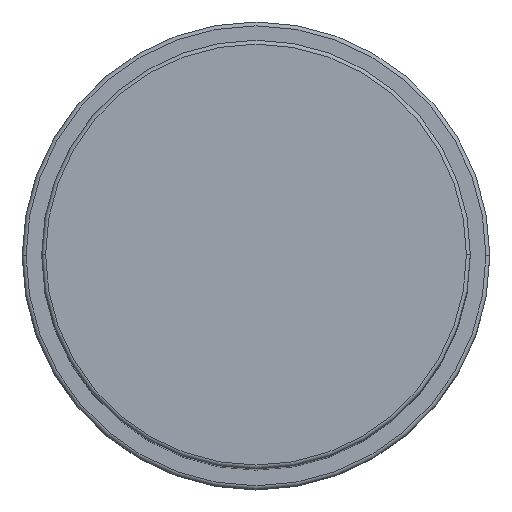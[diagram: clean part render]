
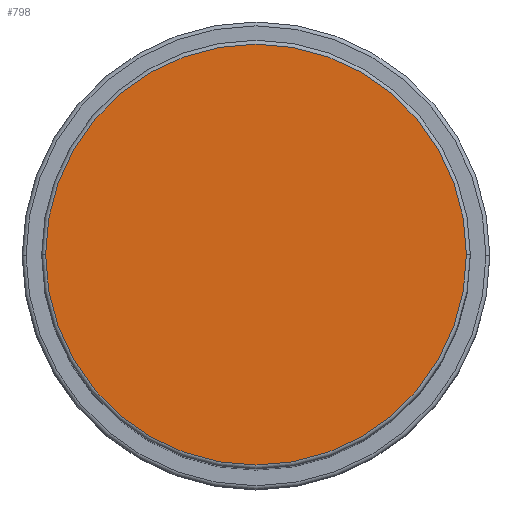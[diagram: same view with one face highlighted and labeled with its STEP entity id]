
A CAD part, top view. The second image highlights one B-rep face of the part: STEP entity #798.
In plain terms, the highlighted planar face has unit normal (0, 0, 1).
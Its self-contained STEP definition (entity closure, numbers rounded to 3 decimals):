
#44 = CARTESIAN_POINT ( 'NONE',  ( 0., 0., 116. ) ) ;
#46 = PLANE ( 'NONE',  #229 ) ;
#64 = DIRECTION ( 'NONE',  ( 0., 0., 1. ) ) ;
#163 = CARTESIAN_POINT ( 'NONE',  ( 0., 0., 116. ) ) ;
#171 = VERTEX_POINT ( 'NONE', #1419 ) ;
#229 = AXIS2_PLACEMENT_3D ( 'NONE', #163, #64, #743 ) ;
#278 = EDGE_CURVE ( 'NONE', #591, #171, #1436, .T. ) ;
#301 = ORIENTED_EDGE ( 'NONE', *, *, #605, .T. ) ;
#418 = DIRECTION ( 'NONE',  ( 0., 0., 1. ) ) ;
#439 = CARTESIAN_POINT ( 'NONE',  ( -27., 0., 116. ) ) ;
#591 = VERTEX_POINT ( 'NONE', #439 ) ;
#605 = EDGE_CURVE ( 'NONE', #171, #591, #697, .T. ) ;
#691 = DIRECTION ( 'NONE',  ( 1., 0., 0. ) ) ;
#697 = CIRCLE ( 'NONE', #1539, 27. ) ;
#743 = DIRECTION ( 'NONE',  ( 1., 0., 0. ) ) ;
#744 = AXIS2_PLACEMENT_3D ( 'NONE', #1488, #418, #691 ) ;
#798 = ADVANCED_FACE ( 'NONE', ( #1644 ), #46, .T. ) ;
#826 = EDGE_LOOP ( 'NONE', ( #301, #1463 ) ) ;
#1114 = DIRECTION ( 'NONE',  ( 1., 0., 0. ) ) ;
#1419 = CARTESIAN_POINT ( 'NONE',  ( 27., 0., 116. ) ) ;
#1436 = CIRCLE ( 'NONE', #744, 27. ) ;
#1463 = ORIENTED_EDGE ( 'NONE', *, *, #278, .T. ) ;
#1488 = CARTESIAN_POINT ( 'NONE',  ( 0., 0., 116. ) ) ;
#1539 = AXIS2_PLACEMENT_3D ( 'NONE', #44, #1670, #1114 ) ;
#1644 = FACE_OUTER_BOUND ( 'NONE', #826, .T. ) ;
#1670 = DIRECTION ( 'NONE',  ( 0., 0., 1. ) ) ;
